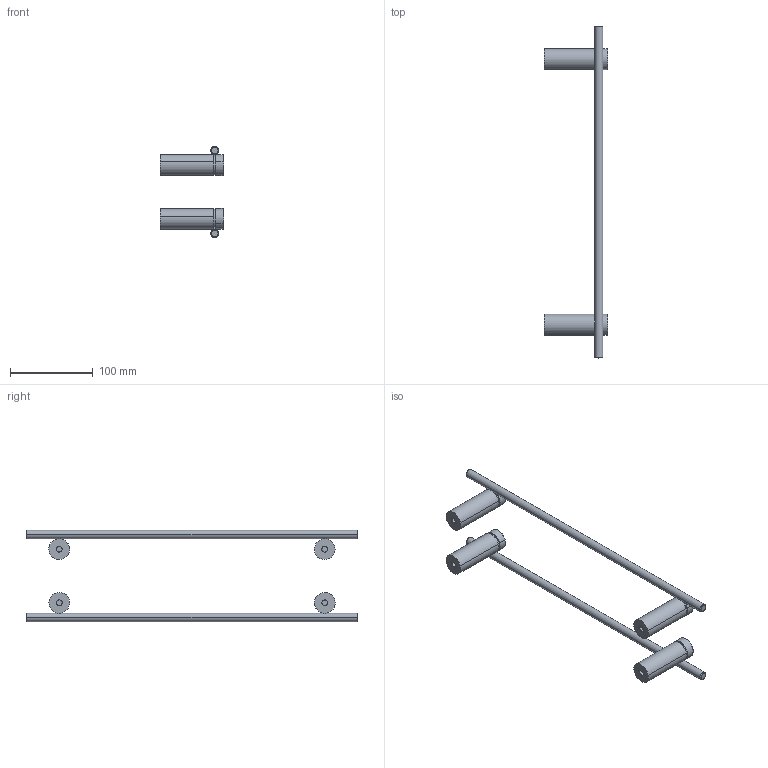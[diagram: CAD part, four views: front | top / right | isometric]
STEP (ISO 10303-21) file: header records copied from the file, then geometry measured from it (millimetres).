
FILE_DESCRIPTION (( 'STEP AP214' ), '1' );
FILE_NAME ('Pó³ka na rêczniki LUVIA 40 cm.STEP', '2024-07-19T10:44:15', ( '' ), ( '' ), 'SwSTEP 2.0', 'SolidWorks 2021', '' );
FILE_SCHEMA (( 'AUTOMOTIVE_DESIGN' ));
Length unit declared in the file: millimetre
Products named in the file (6): 02-014-0400-W-00-01; Œruba M10; 02-014-0400-W-00-02; Pó³ka na rêczniki LUVIA 40 cm; 02-014-0400-W-00-00; Dystans monta¿owy
Assembly tree (9 placements, depth 3):
  Pó³ka na rêczniki LUVIA 40 cm
    02-014-0400-W-00-00  x2
      02-014-0400-W-00-01
      02-014-0400-W-00-02
      Dystans monta¿owy
      Œruba M10
Bounding box: 77 x 400 x 110 mm (x, y, z)
Volume: 195103.4 mm3; surface area: 72777.8 mm2
Topology: 14 solids, 14 shells, 264 faces, 644 edges, 416 vertices
Faces by surface type: cylinder 156, plane 64, bspline 28, torus 16
Entity records: 7128 total; most frequent: CARTESIAN_POINT 5397, ORIENTED_EDGE 336, DIRECTION 305, EDGE_CURVE 168, AXIS2_PLACEMENT_3D 124, VERTEX_POINT 108, EDGE_LOOP 76, ADVANCED_FACE 70
